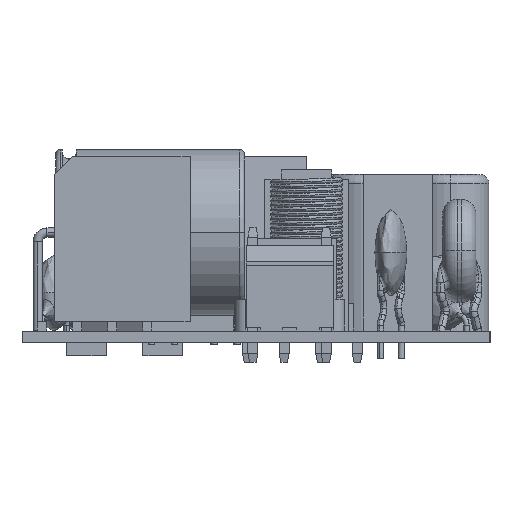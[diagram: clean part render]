
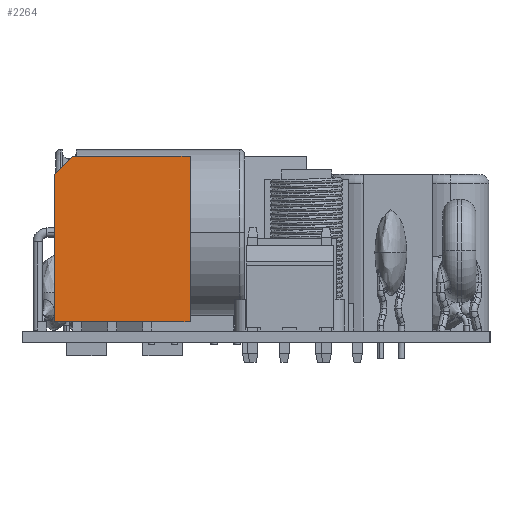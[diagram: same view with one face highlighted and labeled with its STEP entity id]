
A CAD part, left-side view. The second image highlights one B-rep face of the part: STEP entity #2264.
In plain terms, the highlighted planar face has unit normal (-1, 0, 0).
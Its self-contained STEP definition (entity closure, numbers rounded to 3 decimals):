
#1400 = EDGE_CURVE ( 'NONE', #9669, #38634, #24032, .T. ) ;
#2264 = ADVANCED_FACE ( 'NONE', ( #54797 ), #13342, .F. ) ;
#2628 = DIRECTION ( 'NONE',  ( 0., 0.707, -0.707 ) ) ;
#7766 = CARTESIAN_POINT ( 'NONE',  ( 0.801, 33.663, 2.2 ) ) ;
#8085 = VERTEX_POINT ( 'NONE', #39701 ) ;
#8101 = DIRECTION ( 'NONE',  ( 0., 0., -1. ) ) ;
#9669 = VERTEX_POINT ( 'NONE', #45306 ) ;
#10247 = EDGE_LOOP ( 'NONE', ( #64256, #25676, #49658, #20969, #17088 ) ) ;
#10455 = VECTOR ( 'NONE', #25307, 1000. ) ;
#13342 = PLANE ( 'NONE',  #47464 ) ;
#14265 = EDGE_CURVE ( 'NONE', #38226, #8085, #31980, .T. ) ;
#16022 = CARTESIAN_POINT ( 'NONE',  ( 0.801, 48.413, 18.2 ) ) ;
#17088 = ORIENTED_EDGE ( 'NONE', *, *, #1400, .F. ) ;
#18442 = DIRECTION ( 'NONE',  ( 1., 0., 0. ) ) ;
#18474 = VECTOR ( 'NONE', #8101, 1000. ) ;
#19877 = CARTESIAN_POINT ( 'NONE',  ( 0.801, 33.663, 2.2 ) ) ;
#20168 = CARTESIAN_POINT ( 'NONE',  ( 0.801, 33.663, 20.2 ) ) ;
#20611 = EDGE_CURVE ( 'NONE', #8085, #38634, #34942, .T. ) ;
#20969 = ORIENTED_EDGE ( 'NONE', *, *, #20611, .T. ) ;
#24032 = LINE ( 'NONE', #20168, #10455 ) ;
#25280 = EDGE_CURVE ( 'NONE', #41645, #38226, #62757, .T. ) ;
#25307 = DIRECTION ( 'NONE',  ( 0., 0., -1. ) ) ;
#25676 = ORIENTED_EDGE ( 'NONE', *, *, #25280, .T. ) ;
#27783 = VECTOR ( 'NONE', #39512, 1000. ) ;
#28026 = CARTESIAN_POINT ( 'NONE',  ( 0.801, 46.413, 20.2 ) ) ;
#31980 = LINE ( 'NONE', #43536, #18474 ) ;
#34942 = LINE ( 'NONE', #19877, #62170 ) ;
#38226 = VERTEX_POINT ( 'NONE', #16022 ) ;
#38634 = VERTEX_POINT ( 'NONE', #7766 ) ;
#39512 = DIRECTION ( 'NONE',  ( 0., -1., 0. ) ) ;
#39701 = CARTESIAN_POINT ( 'NONE',  ( 0.801, 48.413, 2.2 ) ) ;
#41645 = VERTEX_POINT ( 'NONE', #58669 ) ;
#43536 = CARTESIAN_POINT ( 'NONE',  ( 0.801, 48.413, 20.2 ) ) ;
#45306 = CARTESIAN_POINT ( 'NONE',  ( 0.801, 33.663, 20.2 ) ) ;
#47464 = AXIS2_PLACEMENT_3D ( 'NONE', #48994, #18442, #54149 ) ;
#48994 = CARTESIAN_POINT ( 'NONE',  ( 0.801, 33.663, 20.2 ) ) ;
#49143 = VECTOR ( 'NONE', #2628, 1000. ) ;
#49658 = ORIENTED_EDGE ( 'NONE', *, *, #14265, .T. ) ;
#50426 = DIRECTION ( 'NONE',  ( 0., -1., 0. ) ) ;
#54089 = EDGE_CURVE ( 'NONE', #41645, #9669, #54947, .T. ) ;
#54149 = DIRECTION ( 'NONE',  ( 0., 0., -1. ) ) ;
#54797 = FACE_OUTER_BOUND ( 'NONE', #10247, .T. ) ;
#54947 = LINE ( 'NONE', #64811, #27783 ) ;
#58669 = CARTESIAN_POINT ( 'NONE',  ( 0.801, 46.413, 20.2 ) ) ;
#62170 = VECTOR ( 'NONE', #50426, 1000. ) ;
#62757 = LINE ( 'NONE', #28026, #49143 ) ;
#64256 = ORIENTED_EDGE ( 'NONE', *, *, #54089, .F. ) ;
#64811 = CARTESIAN_POINT ( 'NONE',  ( 0.801, 33.663, 20.2 ) ) ;
